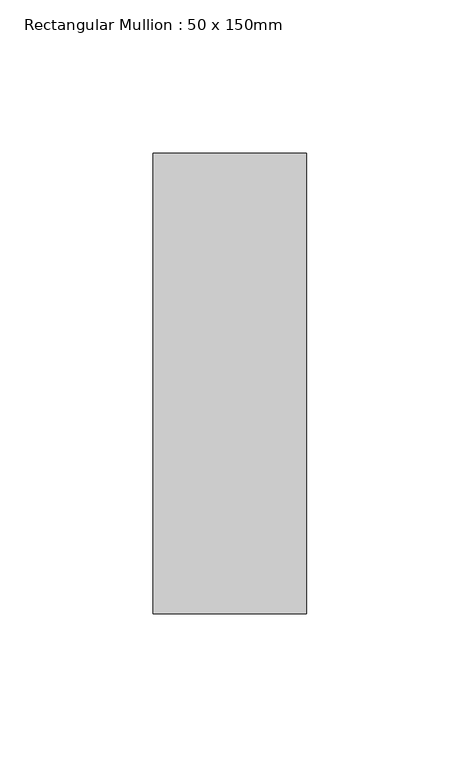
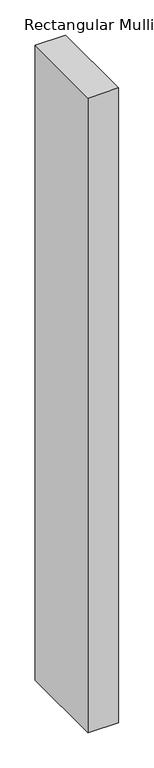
"""IFC4 building model written with IfcOpenShell, lengths in millimetres: member geometry, Rectangular Mullion : 50 x 150mm."""

from ifc_helpers import new_model, si_unit, frame, origin, place, context, project, spatial, polyline, outline, extrude, source, transform, mapped, element, save


def rectangular_mullion_50_x_150mm_f9e96e8e(model_context):
    return source(origin(), model_context, "Body", "SweptSolid", [
        extrude(outline(polyline([(0.0, 75.0), (0.0, -75.0), (-50.0, -75.0), (-50.0, 75.0), (0.0, 75.0)])), frame((0.0, 0.0, -1096.975), z_axis=(0.0, 0.0, 1.0), x_axis=(1.0, 0.0, 0.0)), (0.0, 0.0, 1.0), 1096.975),
    ])


if __name__ == "__main__":
    model = new_model("IFC4")
    model_context = context("Model", 3, world=origin())
    ifc_project = project(units=[si_unit("LENGTHUNIT", "METRE", prefix="MILLI")], contexts=[model_context])
    site = spatial("IfcSite", under=ifc_project)
    building = spatial("IfcBuilding", under=site)
    placement = place(None, origin())
    rectangular_mullion_50_x_150mm_shape = rectangular_mullion_50_x_150mm_f9e96e8e(model_context)
    element("IfcMember", 1, ObjectType="Rectangular Mullion : 50 x 150mm", at=placement, inside=building, context=model_context, shape_type="MappedRepresentation", body=[
        mapped(rectangular_mullion_50_x_150mm_shape, transform((0.0, 0.0, 0.0), x_axis=(1.0, 0.0, 0.0), y_axis=(0.0, 1.0, 0.0), z_axis=(0.0, 0.0, 1.0))),
    ])
    save(model, "model.ifc")
